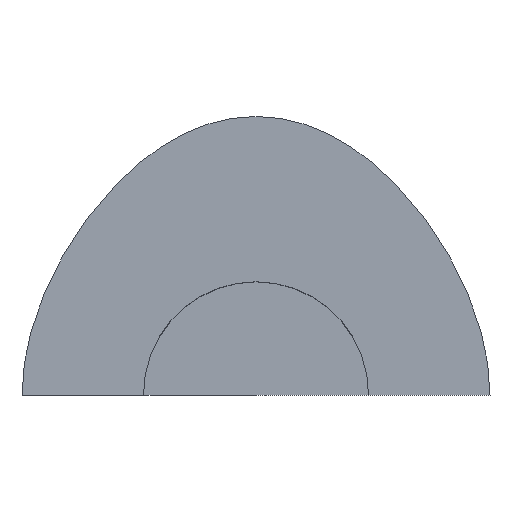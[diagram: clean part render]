
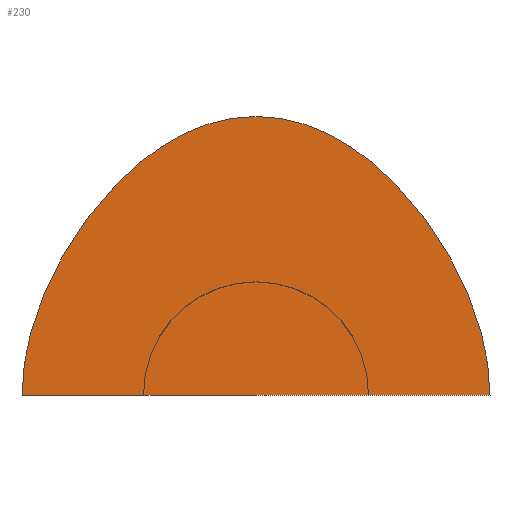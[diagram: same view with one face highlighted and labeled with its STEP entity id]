
A CAD part, top view. The second image highlights one B-rep face of the part: STEP entity #230.
In plain terms, the highlighted planar face has unit normal (0, 0, 1).
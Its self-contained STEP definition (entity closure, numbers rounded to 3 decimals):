
#193=CARTESIAN_POINT('Axis2P3D Location',(0.,50.302,0.)) ;
#198=CARTESIAN_POINT('Line Origine',(0.,0.,0.)) ;
#202=CARTESIAN_POINT('Vertex',(-104.,0.,0.)) ;
#204=CARTESIAN_POINT('Vertex',(104.,0.,0.)) ;
#208=CARTESIAN_POINT('Control Point',(0.,124.,0.)) ;
#209=CARTESIAN_POINT('Control Point',(32.368,124.,0.)) ;
#210=CARTESIAN_POINT('Control Point',(62.414,105.138,0.)) ;
#211=CARTESIAN_POINT('Control Point',(90.138,67.414,0.)) ;
#212=CARTESIAN_POINT('Control Point',(104.,32.368,0.)) ;
#213=CARTESIAN_POINT('Control Point',(104.,0.,0.)) ;
#214=CARTESIAN_POINT('Vertex',(0.,124.,0.)) ;
#218=CARTESIAN_POINT('Control Point',(0.,124.,0.)) ;
#219=CARTESIAN_POINT('Control Point',(-32.368,124.,0.)) ;
#220=CARTESIAN_POINT('Control Point',(-62.414,105.138,0.)) ;
#221=CARTESIAN_POINT('Control Point',(-90.138,67.414,0.)) ;
#222=CARTESIAN_POINT('Control Point',(-104.,32.368,0.)) ;
#223=CARTESIAN_POINT('Control Point',(-104.,0.,0.)) ;
#194=DIRECTION('Axis2P3D Direction',(0.,0.,1.)) ;
#195=DIRECTION('Axis2P3D XDirection',(1.,0.,0.)) ;
#199=DIRECTION('Vector Direction',(1.,0.,0.)) ;
#196=AXIS2_PLACEMENT_3D('Plane Axis2P3D',#193,#194,#195) ;
#226=ORIENTED_EDGE('',*,*,#206,.T.) ;
#227=ORIENTED_EDGE('',*,*,#216,.T.) ;
#228=ORIENTED_EDGE('',*,*,#224,.T.) ;
#200=VECTOR('Line Direction',#199,1.) ;
#230=ADVANCED_FACE('Fill.1',(#229),#197,.T.) ;
#207=B_SPLINE_CURVE_WITH_KNOTS('',5,(#208,#209,#210,#211,#212,#213),.UNSPECIFIED.,.F.,.U.,(6,6),(0.,161.839),.UNSPECIFIED.) ;
#217=B_SPLINE_CURVE_WITH_KNOTS('',5,(#218,#219,#220,#221,#222,#223),.UNSPECIFIED.,.F.,.U.,(6,6),(0.,161.839),.UNSPECIFIED.) ;
#206=EDGE_CURVE('',#203,#205,#201,.T.) ;
#216=EDGE_CURVE('',#205,#215,#207,.F.) ;
#224=EDGE_CURVE('',#215,#203,#217,.T.) ;
#225=EDGE_LOOP('',(#226,#227,#228)) ;
#229=FACE_OUTER_BOUND('',#225,.T.) ;
#201=LINE('Line',#198,#200) ;
#197=PLANE('',#196) ;
#203=VERTEX_POINT('',#202) ;
#205=VERTEX_POINT('',#204) ;
#215=VERTEX_POINT('',#214) ;
